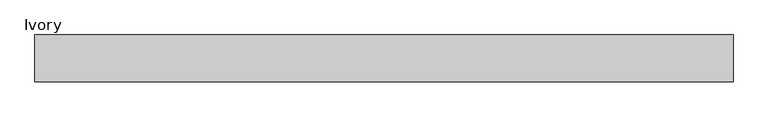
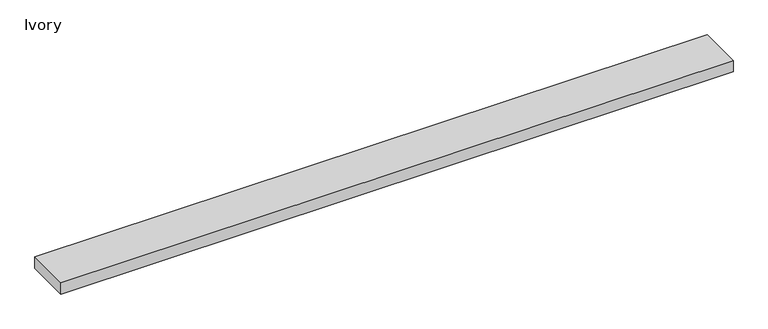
"""IFC4 building model written with IfcOpenShell, lengths in millimetres: proxy geometry, Raceway-5500_Series-Wiremold-Multi_Channel : Ivory."""

import ifcopenshell
import ifcopenshell.guid

model = None  # the IFC model being written
_history = None  # IfcOwnerHistory: only IFC2X3 demands one
_inside = {}  # id of a spatial element -> (the spatial element, [elements in it])
_under = {}  # id of a project, library or spatial element -> (it, [spatial elements below it])
_declared = {}  # id of a project -> (the project, [libraries it declares])
_typed = {}  # id of a type object -> (the type object, [elements of that type])
_made_of = {}  # id of a material, layer set ... -> (it, [elements and type objects made of it])


def new_model(schema):
    """Start an empty IFC model of exactly this schema.

    Asked for "IFC4X3", IfcOpenShell would pick the latest addendum, in which some entities
    have other attributes; the version numbers below select the first issue.
    IFC2X3 requires an IfcOwnerHistory on every rooted entity: one is made here for all.
    """
    global model, _history
    if schema == "IFC4X3":
        model = ifcopenshell.file(schema_version=(4, 3, 0, 0))
    else:
        model = ifcopenshell.file(schema=schema)
    _inside.clear()
    _under.clear()
    _declared.clear()
    _typed.clear()
    _made_of.clear()
    _history = None
    if model.schema == "IFC2X3":
        org = make("IfcOrganization", Name="unknown")
        user = make(
            "IfcPersonAndOrganization",
            ThePerson=make("IfcPerson", FamilyName="unknown"),
            TheOrganization=org,
        )
        app = make(
            "IfcApplication",
            ApplicationDeveloper=org,
            Version="unknown",
            ApplicationFullName="unknown",
            ApplicationIdentifier="unknown",
        )
        _history = make(
            "IfcOwnerHistory",
            OwningUser=user,
            OwningApplication=app,
            ChangeAction="ADDED",
            CreationDate=0,
        )
    return model


def make(cls, **values):
    """One entity of the class cls with the attributes given. An attribute that is None is left unset."""
    return model.create_entity(
        cls, **{name: value for name, value in values.items() if value is not None}
    )


def rooted(cls, **values):
    """An entity with a GlobalId (a new one), such as an element, a storey or a relation."""
    return make(cls, GlobalId=ifcopenshell.guid.new(), OwnerHistory=_history, **values)


def si_unit(unit_type, name, prefix=None):
    """IfcSIUnit, for example si_unit("LENGTHUNIT", "METRE", prefix="MILLI")."""
    return make("IfcSIUnit", UnitType=unit_type, Prefix=prefix, Name=name)


def assignment(units):
    """IfcUnitAssignment: the units of a project."""
    return None if units is None else make("IfcUnitAssignment", Units=units)


def point(xyz):
    """IfcCartesianPoint."""
    return None if xyz is None else make("IfcCartesianPoint", Coordinates=xyz)


def direction(xyz):
    """IfcDirection."""
    return None if xyz is None else make("IfcDirection", DirectionRatios=xyz)


def frame(location, z_axis=None, x_axis=None):
    """IfcAxis2Placement3D, a coordinate frame: its origin and axes. An axis left out is left unset."""
    return make(
        "IfcAxis2Placement3D",
        Location=point(location),
        Axis=direction(z_axis),
        RefDirection=direction(x_axis),
    )


def origin():
    """The frame at (0, 0, 0) with its axes left unset."""
    return frame((0.0, 0.0, 0.0))


def origin_with_axes():
    """The frame at (0, 0, 0) with the z axis (0, 0, 1) and the x axis (1, 0, 0) written out."""
    return frame((0.0, 0.0, 0.0), z_axis=(0.0, 0.0, 1.0), x_axis=(1.0, 0.0, 0.0))


def place(relative_to, where):
    """IfcLocalPlacement: puts the frame where relative to a parent placement (None: the world)."""
    return make(
        "IfcLocalPlacement", PlacementRelTo=relative_to, RelativePlacement=where
    )


def context(
    kind, dimensions, precision=None, world=None, true_north=None, identifier=None
):
    """IfcGeometricRepresentationContext, for example the 3D "Model" context."""
    return make(
        "IfcGeometricRepresentationContext",
        ContextIdentifier=identifier,
        ContextType=kind,
        CoordinateSpaceDimension=dimensions,
        Precision=precision,
        WorldCoordinateSystem=world,
        TrueNorth=true_north,
    )


def project(units=None, contexts=None):
    """IfcProject with its units and contexts."""
    return rooted(
        "IfcProject",
        Name="project",
        RepresentationContexts=contexts,
        UnitsInContext=assignment(units),
    )


def spatial(cls, under=None, at=None, **own):
    """A site, building, storey or space (cls), placed at a placement, below another one or the project."""
    s = rooted(cls, ObjectPlacement=at, **own)
    if under is not None:
        _under.setdefault(under.id(), (under, []))[1].append(s)
    return s


def polyline(points):
    """IfcPolyline through the points."""
    return make("IfcPolyline", Points=[point(p) for p in points])


def outline(outer, holes=None, kind="AREA"):
    """IfcArbitraryClosedProfileDef: a profile drawn as a closed curve; with holes, ...WithVoids."""
    if holes is None:
        return make("IfcArbitraryClosedProfileDef", ProfileType=kind, OuterCurve=outer)
    return make(
        "IfcArbitraryProfileDefWithVoids",
        ProfileType=kind,
        OuterCurve=outer,
        InnerCurves=holes,
    )


def extrude(swept, where, along, depth):
    """IfcExtrudedAreaSolid: the profile swept, set in the frame where, extruded along a direction by depth."""
    return make(
        "IfcExtrudedAreaSolid",
        SweptArea=swept,
        Position=where,
        ExtrudedDirection=direction(along),
        Depth=depth,
    )


def shape(context_of_items, identifier, shape_type, items):
    """IfcShapeRepresentation: the items that make up one representation, for example the "Body"."""
    return make(
        "IfcShapeRepresentation",
        ContextOfItems=context_of_items,
        RepresentationIdentifier=identifier,
        RepresentationType=shape_type,
        Items=items,
    )


def source(mapping_origin, context_of_items, identifier, shape_type, items):
    """IfcRepresentationMap: a shape defined once, which mapped items show again and again."""
    return make(
        "IfcRepresentationMap",
        MappingOrigin=mapping_origin,
        MappedRepresentation=shape(context_of_items, identifier, shape_type, items),
    )


def transform(
    local_origin,
    x_axis=None,
    y_axis=None,
    z_axis=None,
    scale=None,
    scale2=None,
    scale3=None,
    uniform=True,
):
    """IfcCartesianTransformationOperator3D, or its non-uniform kind. x_axis, y_axis, z_axis: its Axis1, 2, 3."""
    if uniform:
        return make(
            "IfcCartesianTransformationOperator3D",
            Axis1=direction(x_axis),
            Axis2=direction(y_axis),
            LocalOrigin=point(local_origin),
            Scale=scale,
            Axis3=direction(z_axis),
        )
    return make(
        "IfcCartesianTransformationOperator3DnonUniform",
        Axis1=direction(x_axis),
        Axis2=direction(y_axis),
        LocalOrigin=point(local_origin),
        Scale=scale,
        Axis3=direction(z_axis),
        Scale2=scale2,
        Scale3=scale3,
    )


def mapped(mapping_source, mapping_target):
    """IfcMappedItem: shows the shape of a source again, moved by a transform."""
    return make(
        "IfcMappedItem", MappingSource=mapping_source, MappingTarget=mapping_target
    )


def made_of(thing, what):
    """Note that an element or type object is made of a material, layer set ...; save() writes the relation."""
    if what is not None:
        _made_of.setdefault(what.id(), (what, []))[1].append(thing)
    return thing


def element(
    cls,
    number,
    at=None,
    inside=None,
    cuts=None,
    type_object=None,
    material=None,
    context=None,
    identifier="Body",
    shape_type=None,
    held_by="IfcProductDefinitionShape",
    body=None,
    shapes=None,
    **own,
):
    """One element of the class cls, such as IfcWall. Its Tag is "e" and its number.

    at: its placement. inside: the storey or other place that contains it. cuts: it is an
    opening in that element (IfcRelVoidsElement). A single representation is given by context,
    identifier, shape_type and body (its items); several are given by shapes. held_by: the class
    of the entity that holds the representations. save() writes the other relations.
    """
    e = rooted(cls, Tag="e%d" % number, ObjectPlacement=at, **own)
    if body is not None:
        shapes = [shape(context, identifier, shape_type, body)]
    if shapes is not None:
        e.Representation = make(held_by, Representations=shapes)
    if inside is not None:
        _inside.setdefault(inside.id(), (inside, []))[1].append(e)
    if cuts is not None:
        rooted(
            "IfcRelVoidsElement", RelatingBuildingElement=cuts, RelatedOpeningElement=e
        )
    if type_object is not None:
        _typed.setdefault(type_object.id(), (type_object, []))[1].append(e)
    return made_of(e, material)


def aggregate(whole, parts):
    """IfcRelAggregates: a whole, such as a stair, and the parts it consists of."""
    return rooted("IfcRelAggregates", RelatingObject=whole, RelatedObjects=parts)


def save(model, path):
    """Write the relations noted so far, then the file.

    IfcRelAggregates (storeys below a building ...), IfcRelContainedInSpatialStructure (elements
    in a storey), IfcRelDefinesByType, IfcRelAssociatesMaterial and IfcRelDeclares: one each for
    every whole, place, type object, material and project.
    """
    for whole, parts in _under.values():
        aggregate(whole, parts)
    for where, things in _inside.values():
        rooted(
            "IfcRelContainedInSpatialStructure",
            RelatedElements=things,
            RelatingStructure=where,
        )
    for kind, things in _typed.values():
        rooted("IfcRelDefinesByType", RelatedObjects=things, RelatingType=kind)
    for what, things in _made_of.values():
        rooted("IfcRelAssociatesMaterial", RelatedObjects=things, RelatingMaterial=what)
    for by, libraries in _declared.values():
        rooted("IfcRelDeclares", RelatingContext=by, RelatedDefinitions=libraries)
    model.write(path)


def ivory_1fea8b6f(model_context):
    return source(origin(), model_context, "Body", "SweptSolid", [
        extrude(outline(polyline([(2527.5546619, 84.9376), (2527.5546619, -84.9376), (0.0, -84.9376), (0.0, 84.9376), (2527.5546619, 84.9376)])), origin_with_axes(), (0.0, 0.0, 1.0), 44.45),
    ])


if __name__ == "__main__":
    model = new_model("IFC4")
    model_context = context("Model", 3, world=origin())
    ifc_project = project(units=[si_unit("LENGTHUNIT", "METRE", prefix="MILLI")], contexts=[model_context])
    site = spatial("IfcSite", under=ifc_project)
    building = spatial("IfcBuilding", under=site)
    placement = place(None, origin())
    ivory_shape = ivory_1fea8b6f(model_context)
    element("IfcBuildingElementProxy", 1, Name="Raceway-5500_Series-Wiremold-Multi_Channel : Ivory", ObjectType="Raceway-5500_Series-Wiremold-Multi_Channel : Ivory", at=placement, inside=building, context=model_context, shape_type="MappedRepresentation", body=[
        mapped(ivory_shape, transform((0.0, 0.0, 0.0), x_axis=(1.0, 0.0, 0.0), y_axis=(0.0, 1.0, 0.0), z_axis=(0.0, 0.0, 1.0))),
    ])
    save(model, "model.ifc")
